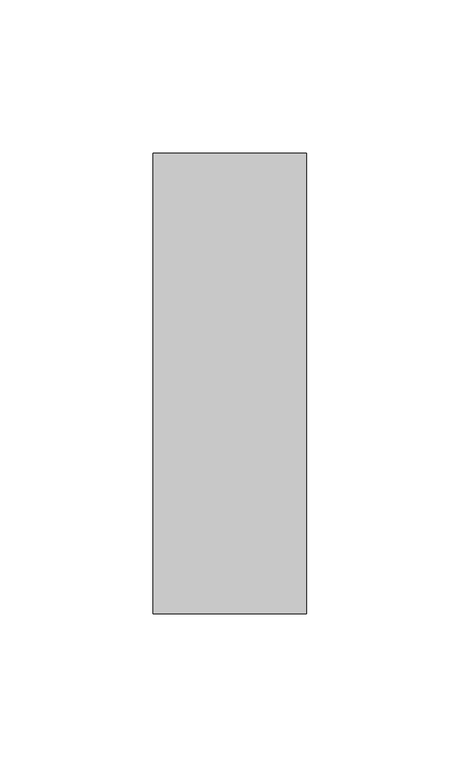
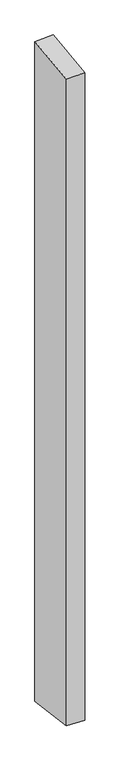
"""IFC4 building model written with IfcOpenShell, lengths in millimetres: member geometry, Прямоугольный импост : 50 x 150 мм."""

import ifcopenshell
import ifcopenshell.guid

model = None  # the IFC model being written
_history = None  # IfcOwnerHistory: only IFC2X3 demands one
_inside = {}  # id of a spatial element -> (the spatial element, [elements in it])
_under = {}  # id of a project, library or spatial element -> (it, [spatial elements below it])
_declared = {}  # id of a project -> (the project, [libraries it declares])
_typed = {}  # id of a type object -> (the type object, [elements of that type])
_made_of = {}  # id of a material, layer set ... -> (it, [elements and type objects made of it])


def new_model(schema):
    """Start an empty IFC model of exactly this schema.

    Asked for "IFC4X3", IfcOpenShell would pick the latest addendum, in which some entities
    have other attributes; the version numbers below select the first issue.
    IFC2X3 requires an IfcOwnerHistory on every rooted entity: one is made here for all.
    """
    global model, _history
    if schema == "IFC4X3":
        model = ifcopenshell.file(schema_version=(4, 3, 0, 0))
    else:
        model = ifcopenshell.file(schema=schema)
    _inside.clear()
    _under.clear()
    _declared.clear()
    _typed.clear()
    _made_of.clear()
    _history = None
    if model.schema == "IFC2X3":
        org = make("IfcOrganization", Name="unknown")
        user = make(
            "IfcPersonAndOrganization",
            ThePerson=make("IfcPerson", FamilyName="unknown"),
            TheOrganization=org,
        )
        app = make(
            "IfcApplication",
            ApplicationDeveloper=org,
            Version="unknown",
            ApplicationFullName="unknown",
            ApplicationIdentifier="unknown",
        )
        _history = make(
            "IfcOwnerHistory",
            OwningUser=user,
            OwningApplication=app,
            ChangeAction="ADDED",
            CreationDate=0,
        )
    return model


def make(cls, **values):
    """One entity of the class cls with the attributes given. An attribute that is None is left unset."""
    return model.create_entity(
        cls, **{name: value for name, value in values.items() if value is not None}
    )


def rooted(cls, **values):
    """An entity with a GlobalId (a new one), such as an element, a storey or a relation."""
    return make(cls, GlobalId=ifcopenshell.guid.new(), OwnerHistory=_history, **values)


def si_unit(unit_type, name, prefix=None):
    """IfcSIUnit, for example si_unit("LENGTHUNIT", "METRE", prefix="MILLI")."""
    return make("IfcSIUnit", UnitType=unit_type, Prefix=prefix, Name=name)


def assignment(units):
    """IfcUnitAssignment: the units of a project."""
    return None if units is None else make("IfcUnitAssignment", Units=units)


def point(xyz):
    """IfcCartesianPoint."""
    return None if xyz is None else make("IfcCartesianPoint", Coordinates=xyz)


def direction(xyz):
    """IfcDirection."""
    return None if xyz is None else make("IfcDirection", DirectionRatios=xyz)


def frame(location, z_axis=None, x_axis=None):
    """IfcAxis2Placement3D, a coordinate frame: its origin and axes. An axis left out is left unset."""
    return make(
        "IfcAxis2Placement3D",
        Location=point(location),
        Axis=direction(z_axis),
        RefDirection=direction(x_axis),
    )


def origin():
    """The frame at (0, 0, 0) with its axes left unset."""
    return frame((0.0, 0.0, 0.0))


def place(relative_to, where):
    """IfcLocalPlacement: puts the frame where relative to a parent placement (None: the world)."""
    return make(
        "IfcLocalPlacement", PlacementRelTo=relative_to, RelativePlacement=where
    )


def context(
    kind, dimensions, precision=None, world=None, true_north=None, identifier=None
):
    """IfcGeometricRepresentationContext, for example the 3D "Model" context."""
    return make(
        "IfcGeometricRepresentationContext",
        ContextIdentifier=identifier,
        ContextType=kind,
        CoordinateSpaceDimension=dimensions,
        Precision=precision,
        WorldCoordinateSystem=world,
        TrueNorth=true_north,
    )


def project(units=None, contexts=None):
    """IfcProject with its units and contexts."""
    return rooted(
        "IfcProject",
        Name="project",
        RepresentationContexts=contexts,
        UnitsInContext=assignment(units),
    )


def spatial(cls, under=None, at=None, **own):
    """A site, building, storey or space (cls), placed at a placement, below another one or the project."""
    s = rooted(cls, ObjectPlacement=at, **own)
    if under is not None:
        _under.setdefault(under.id(), (under, []))[1].append(s)
    return s


def faces_of(points, faces, orient=None, outer=None):
    """IfcFace entities. A face is a list of loops; a loop is a list of indices into points, from 0.

    orient and outer hold one flag for each loop. By default every Orientation is true, the
    first loop of a face is its IfcFaceOuterBound and the others are IfcFaceBound.
    """
    made = []
    for i, loops in enumerate(faces):
        bounds = []
        for j, loop in enumerate(loops):
            is_outer = j == 0 if outer is None else outer[i][j]
            bounds.append(
                make(
                    "IfcFaceOuterBound" if is_outer else "IfcFaceBound",
                    Bound=make("IfcPolyLoop", Polygon=[points[k] for k in loop]),
                    Orientation=True if orient is None else orient[i][j],
                )
            )
        made.append(make("IfcFace", Bounds=bounds))
    return made


def faceted_brep(points, faces, orient=None, outer=None, voids=None):
    """IfcFacetedBrep: a solid bounded by flat faces; with voids (closed shells), ...WithVoids."""
    shared = [point(p) for p in points]
    hull = make("IfcClosedShell", CfsFaces=faces_of(shared, faces, orient, outer))
    if voids is None:
        return make("IfcFacetedBrep", Outer=hull)
    return make(
        "IfcFacetedBrepWithVoids",
        Outer=hull,
        Voids=[
            make(cls, CfsFaces=faces_of(shared, fs, o, b)) for cls, fs, o, b in voids
        ],
    )


def shape(context_of_items, identifier, shape_type, items):
    """IfcShapeRepresentation: the items that make up one representation, for example the "Body"."""
    return make(
        "IfcShapeRepresentation",
        ContextOfItems=context_of_items,
        RepresentationIdentifier=identifier,
        RepresentationType=shape_type,
        Items=items,
    )


def source(mapping_origin, context_of_items, identifier, shape_type, items):
    """IfcRepresentationMap: a shape defined once, which mapped items show again and again."""
    return make(
        "IfcRepresentationMap",
        MappingOrigin=mapping_origin,
        MappedRepresentation=shape(context_of_items, identifier, shape_type, items),
    )


def transform(
    local_origin,
    x_axis=None,
    y_axis=None,
    z_axis=None,
    scale=None,
    scale2=None,
    scale3=None,
    uniform=True,
):
    """IfcCartesianTransformationOperator3D, or its non-uniform kind. x_axis, y_axis, z_axis: its Axis1, 2, 3."""
    if uniform:
        return make(
            "IfcCartesianTransformationOperator3D",
            Axis1=direction(x_axis),
            Axis2=direction(y_axis),
            LocalOrigin=point(local_origin),
            Scale=scale,
            Axis3=direction(z_axis),
        )
    return make(
        "IfcCartesianTransformationOperator3DnonUniform",
        Axis1=direction(x_axis),
        Axis2=direction(y_axis),
        LocalOrigin=point(local_origin),
        Scale=scale,
        Axis3=direction(z_axis),
        Scale2=scale2,
        Scale3=scale3,
    )


def mapped(mapping_source, mapping_target):
    """IfcMappedItem: shows the shape of a source again, moved by a transform."""
    return make(
        "IfcMappedItem", MappingSource=mapping_source, MappingTarget=mapping_target
    )


def made_of(thing, what):
    """Note that an element or type object is made of a material, layer set ...; save() writes the relation."""
    if what is not None:
        _made_of.setdefault(what.id(), (what, []))[1].append(thing)
    return thing


def element(
    cls,
    number,
    at=None,
    inside=None,
    cuts=None,
    type_object=None,
    material=None,
    context=None,
    identifier="Body",
    shape_type=None,
    held_by="IfcProductDefinitionShape",
    body=None,
    shapes=None,
    **own,
):
    """One element of the class cls, such as IfcWall. Its Tag is "e" and its number.

    at: its placement. inside: the storey or other place that contains it. cuts: it is an
    opening in that element (IfcRelVoidsElement). A single representation is given by context,
    identifier, shape_type and body (its items); several are given by shapes. held_by: the class
    of the entity that holds the representations. save() writes the other relations.
    """
    e = rooted(cls, Tag="e%d" % number, ObjectPlacement=at, **own)
    if body is not None:
        shapes = [shape(context, identifier, shape_type, body)]
    if shapes is not None:
        e.Representation = make(held_by, Representations=shapes)
    if inside is not None:
        _inside.setdefault(inside.id(), (inside, []))[1].append(e)
    if cuts is not None:
        rooted(
            "IfcRelVoidsElement", RelatingBuildingElement=cuts, RelatedOpeningElement=e
        )
    if type_object is not None:
        _typed.setdefault(type_object.id(), (type_object, []))[1].append(e)
    return made_of(e, material)


def aggregate(whole, parts):
    """IfcRelAggregates: a whole, such as a stair, and the parts it consists of."""
    return rooted("IfcRelAggregates", RelatingObject=whole, RelatedObjects=parts)


def save(model, path):
    """Write the relations noted so far, then the file.

    IfcRelAggregates (storeys below a building ...), IfcRelContainedInSpatialStructure (elements
    in a storey), IfcRelDefinesByType, IfcRelAssociatesMaterial and IfcRelDeclares: one each for
    every whole, place, type object, material and project.
    """
    for whole, parts in _under.values():
        aggregate(whole, parts)
    for where, things in _inside.values():
        rooted(
            "IfcRelContainedInSpatialStructure",
            RelatedElements=things,
            RelatingStructure=where,
        )
    for kind, things in _typed.values():
        rooted("IfcRelDefinesByType", RelatedObjects=things, RelatingType=kind)
    for what, things in _made_of.values():
        rooted("IfcRelAssociatesMaterial", RelatedObjects=things, RelatingMaterial=what)
    for by, libraries in _declared.values():
        rooted("IfcRelDeclares", RelatingContext=by, RelatedDefinitions=libraries)
    model.write(path)


def member_04083efc(model_context):
    return source(origin(), model_context, "Body", "Brep", [
        faceted_brep([(-25.0, 75.0, 8.1558021), (25.0, 75.0, 10.007126), (25.0, 75.0, -1905.8782026), (-25.0, 75.0, -1903.9032986), (-25.0, -75.0, -10.007126), (-25.0, -75.0, -1884.2946206), (25.0, -75.0, -8.1558021), (25.0, -75.0, -1886.2695247)], [[[0, 1, 2, 3]], [[4, 0, 3, 5]], [[6, 4, 5, 7]], [[1, 6, 7, 2]], [[1, 0, 4, 6]], [[2, 7, 5, 3]]]),
    ])


if __name__ == "__main__":
    model = new_model("IFC4")
    model_context = context("Model", 3, world=origin())
    ifc_project = project(units=[si_unit("LENGTHUNIT", "METRE", prefix="MILLI")], contexts=[model_context])
    site = spatial("IfcSite", under=ifc_project)
    building = spatial("IfcBuilding", under=site)
    placement = place(None, origin())
    member_shape = member_04083efc(model_context)
    element("IfcMember", 1, ObjectType="Прямоугольный импост : 50 x 150 мм", at=placement, inside=building, context=model_context, shape_type="MappedRepresentation", body=[
        mapped(member_shape, transform((0.0, 0.0, 0.0), x_axis=(1.0, 0.0, 0.0), y_axis=(0.0, 1.0, 0.0), z_axis=(0.0, 0.0, 1.0))),
    ])
    save(model, "model.ifc")
